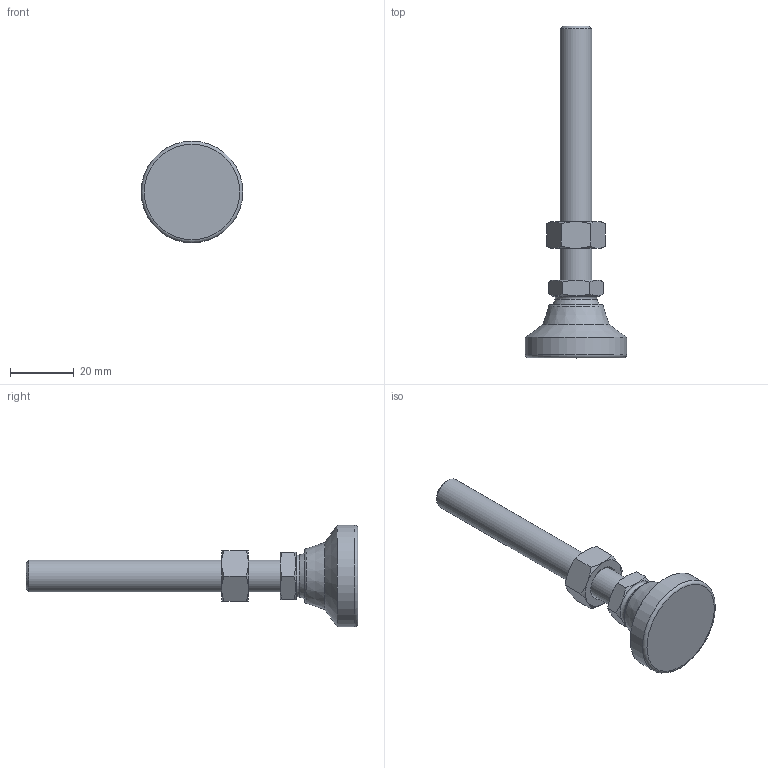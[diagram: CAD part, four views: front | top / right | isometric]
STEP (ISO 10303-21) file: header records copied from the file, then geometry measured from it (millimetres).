
FILE_DESCRIPTION( ( 'STEP AP214' ), ' ' );
FILE_NAME( 'O:/ganter_2015/teil_2/2_5/gn343_2/gn343_2_ks/Levelling foot with threaded stud GN 343.2-32-M10-80-KS-(0).stp', '2015-10-26T09:09:57', ( '' ), ( '' ), ' ', 'PARTsolutions', ' ' );
FILE_SCHEMA( ( 'AUTOMOTIVE_DESIGN { 1 0 10303 214 1 1 1 1 }' ) );
Length unit declared in the file: millimetre
Products named in the file (4): Levelling foot with threaded stud GN 343.2-32-M10-80-KS-(0); _Levelling foot with threaded stud GN 343.2-32-M10-80-KS-(0)_foot; _Gelenkfuss mit Schraube GN 343.2-32-M10-80-KS-(0)_screw; _GLevelling foot with threaded stud GN 343.2-32-M10-80-KS-(0)_nut
Assembly tree (3 placements, depth 2):
  Levelling foot with threaded stud GN 343.2-32-M10-80-KS-(0)
    _Levelling foot with threaded stud GN 343.2-32-M10-80-KS-(0)_foot
    _Gelenkfuss mit Schraube GN 343.2-32-M10-80-KS-(0)_screw
    _GLevelling foot with threaded stud GN 343.2-32-M10-80-KS-(0)_nut
Bounding box: 32 x 104.5 x 32 mm (x, y, z)
Volume: 18214.3 mm3; surface area: 7498.9 mm2
Topology: 3 solids, 3 shells, 50 faces, 107 edges, 63 vertices
Faces by surface type: cone 24, plane 18, torus 3, cylinder 3, sphere 2
Full cylindrical faces by diameter (mm): 8.376 x1, 10 x1, 32 x1
Entity records: 1874 total; most frequent: CARTESIAN_POINT 468, DIRECTION 188, ORIENTED_EDGE 176, AXIS2_PLACEMENT_3D 88, EDGE_CURVE 88, EDGE_LOOP 66, VERTEX_POINT 60, FACE_OUTER_BOUND 56
